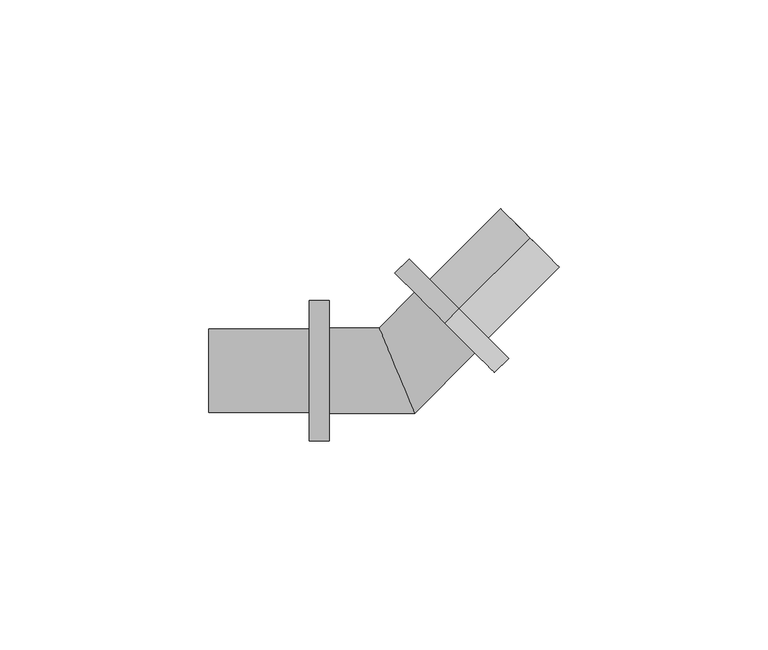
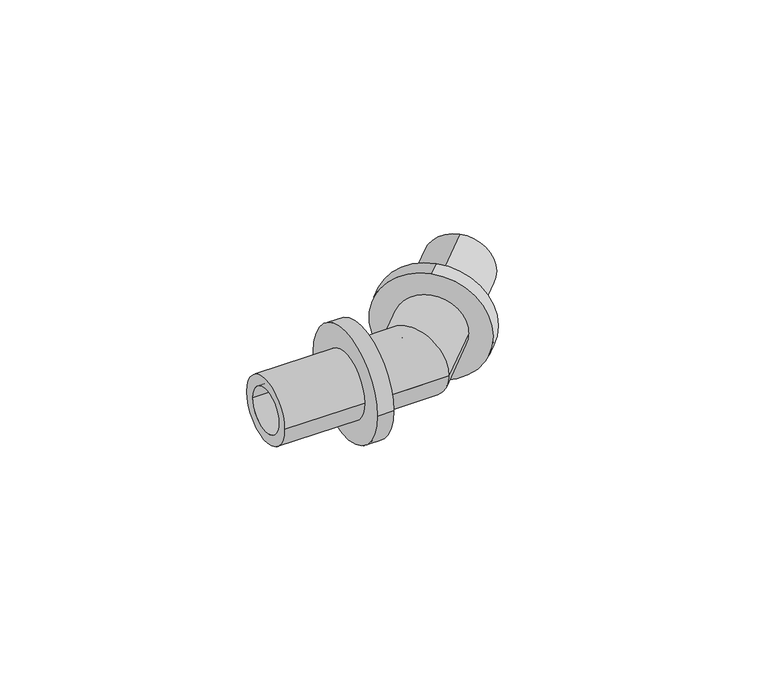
"""IFC4 building model written with IfcOpenShell, lengths in millimetres: pipe fitting geometry, RAUTITAN_Corner_PX : RTI PX C DE."""

from ifc_helpers import new_model, si_unit, frame, origin, place, context, project, spatial, polyline, circle_curve, ellipse_curve, source, transform, mapped, element, save
from ifc_brep_helpers import plane_surface, cylinder_surface, revolved_surface, advanced_brep


def pipe_fitting_b4838fa6(model_context):
    return source(origin(), model_context, "Body", "AdvancedBrep", [
        advanced_brep(
        [(14.8585786, 14.8585786, 16.85), (14.8585786, 14.8585786, -16.85), (11.4644661, 11.4644661, -16.85), (11.4644661, 11.4644661, 16.85), (31.8291414, 31.8291414, 9.95), (31.8291414, 31.8291414, -9.95), (14.8585786, 14.8585786, -9.95), (14.8585786, 14.8585786, 9.95), (11.4644661, 11.4644661, 6.75), (11.4644661, 11.4644661, -6.75), (31.8291414, 31.8291414, -6.75), (31.8291414, 31.8291414, 6.75)],
        [
            (0, 1, circle_curve(frame((14.8585786, 14.8585786, 0.0), z_axis=(-0.7071067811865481, -0.707106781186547, 0.0), x_axis=(0.0, 0.0, -1.0)), 16.85)),
            (1, 2),
            (2, 3, circle_curve(frame((11.4644661, 11.4644661, 0.0), z_axis=(0.7071067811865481, 0.707106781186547, 0.0), x_axis=(0.0, 0.0, -1.0)), 16.85)),
            (3, 0),
            (4, 5, circle_curve(frame((31.8291414, 31.8291414, 0.0), z_axis=(-0.7071067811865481, -0.707106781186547, 0.0), x_axis=(0.0, 0.0, -1.0)), 9.95)),
            (5, 6),
            (6, 7, circle_curve(frame((14.8585786, 14.8585786, 0.0), z_axis=(0.7071067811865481, 0.707106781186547, 0.0), x_axis=(0.0, 0.0, -1.0)), 9.95)),
            (7, 4),
            (8, 9, circle_curve(frame((11.4644661, 11.4644661, 0.0), z_axis=(-0.7071067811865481, -0.707106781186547, 0.0), x_axis=(0.0, 0.0, -1.0)), 6.75)),
            (9, 10),
            (10, 11, circle_curve(frame((31.8291414, 31.8291414, 0.0), z_axis=(0.7071067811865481, 0.707106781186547, 0.0), x_axis=(0.0, 0.0, -1.0)), 6.75)),
            (11, 8),
            (1, 0, circle_curve(frame((14.8585786, 14.8585786, 0.0), z_axis=(-0.7071067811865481, -0.707106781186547, 0.0), x_axis=(0.0, 0.0, 1.0)), 16.85)),
            (3, 2, circle_curve(frame((11.4644661, 11.4644661, 0.0), z_axis=(0.7071067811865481, 0.707106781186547, 0.0), x_axis=(0.0, 0.0, 1.0)), 16.85)),
            (6, 7, circle_curve(frame((14.8585786, 14.8585786, 0.0), z_axis=(-0.7071067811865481, -0.707106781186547, 0.0), x_axis=(0.0, 0.0, 1.0)), 9.95)),
            (5, 4, circle_curve(frame((31.8291414, 31.8291414, 0.0), z_axis=(-0.7071067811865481, -0.707106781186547, 0.0), x_axis=(0.0, 0.0, 1.0)), 9.95)),
            (10, 11, circle_curve(frame((31.8291414, 31.8291414, 0.0), z_axis=(-0.7071067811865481, -0.707106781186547, 0.0), x_axis=(0.0, 0.0, 1.0)), 6.75)),
            (9, 8, circle_curve(frame((11.4644661, 11.4644661, 0.0), z_axis=(-0.7071067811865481, -0.707106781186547, 0.0), x_axis=(0.0, 0.0, 1.0)), 6.75)),
        ],
        [
            cylinder_surface(frame((11.4644661, 11.4644661, 0.0), z_axis=(0.7071067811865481, 0.707106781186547, 0.0), x_axis=(0.0, 0.0, -1.0)), 16.85),
            cylinder_surface(frame((11.4644661, 11.4644661, 0.0), z_axis=(0.7071067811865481, 0.707106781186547, 0.0), x_axis=(0.0, 0.0, -1.0)), 9.95),
            revolved_surface(polyline([(31.82914140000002, 31.829141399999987, -6.75), (11.4644661, 11.4644661, -6.75)]), (11.4644661, 11.4644661, 0.0), (0.7071067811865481, 0.707106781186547, 0.0)),
            cylinder_surface(frame((11.4644661, 11.4644661, 0.0), z_axis=(0.7071067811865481, 0.707106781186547, 0.0), x_axis=(0.0, 0.0, 1.0)), 16.85),
            plane_surface(frame((14.8585786, 14.8585786, 0.0), z_axis=(0.7071067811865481, 0.707106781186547, 0.0), x_axis=(0.0, 0.0, 1.0))),
            cylinder_surface(frame((11.4644661, 11.4644661, 0.0), z_axis=(0.7071067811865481, 0.707106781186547, 0.0), x_axis=(0.0, 0.0, 1.0)), 9.95),
            plane_surface(frame((31.8291414, 31.8291414, 0.0), z_axis=(0.7071067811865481, 0.707106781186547, 0.0), x_axis=(0.0, 0.0, 1.0))),
            revolved_surface(polyline([(31.82914140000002, 31.829141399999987, 6.75), (11.4644661, 11.4644661, 6.75)]), (11.4644661, 11.4644661, 0.0), (0.7071067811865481, 0.707106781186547, 0.0)),
            plane_surface(frame((11.4644661, 11.4644661, 0.0), z_axis=(-0.7071067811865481, -0.707106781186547, 0.0), x_axis=(0.0, 0.0, 1.0))),
        ],
        [
            (0, [[1, 2, 3, 4]]),
            (1, [[5, 6, 7, 8]]),
            (2, [[9, 10, 11, 12]]),
            (3, [[13, -4, 14, -2]]),
            (4, [[-13, -1], [15, -7]]),
            (5, [[16, -8, -15, -6]]),
            (6, [[-16, -5], [17, -11]]),
            (7, [[18, -12, -17, -10]]),
            (8, [[-14, -3], [-18, -9]]),
        ],
    ),
        advanced_brep(
        [(-21.0132034, -16.85, 0.0), (-21.0132034, 16.85, 0.0), (-16.2132034, 16.85, 0.0), (-16.2132034, -16.85, 0.0), (-45.0132034, -9.95, 0.0), (-45.0132034, 9.95, 0.0), (-21.0132034, 9.95, 0.0), (-21.0132034, -9.95, 0.0), (-16.2132034, -6.75, 0.0), (-16.2132034, 6.75, 0.0), (-45.0132034, 6.75, 0.0), (-45.0132034, -6.75, 0.0)],
        [
            (0, 1, circle_curve(frame((-21.0132034, 0.0, 0.0), z_axis=(1.0, 0.0, 0.0), x_axis=(0.0, 1.0, 0.0)), 16.85)),
            (1, 2),
            (2, 3, circle_curve(frame((-16.2132034, 0.0, 0.0), z_axis=(-1.0, 0.0, 0.0), x_axis=(0.0, 1.0, 0.0)), 16.85)),
            (3, 0),
            (4, 5, circle_curve(frame((-45.0132034, 0.0, 0.0), z_axis=(1.0, 0.0, 0.0), x_axis=(0.0, 1.0, 0.0)), 9.95)),
            (5, 6),
            (6, 7, circle_curve(frame((-21.0132034, 0.0, 0.0), z_axis=(-1.0, 0.0, 0.0), x_axis=(0.0, 1.0, 0.0)), 9.95)),
            (7, 4),
            (8, 9, circle_curve(frame((-16.2132034, 0.0, 0.0), z_axis=(1.0, 0.0, 0.0), x_axis=(0.0, 1.0, 0.0)), 6.75)),
            (9, 10),
            (10, 11, circle_curve(frame((-45.0132034, 0.0, 0.0), z_axis=(-1.0, 0.0, 0.0), x_axis=(0.0, 1.0, 0.0)), 6.75)),
            (11, 8),
            (1, 0, circle_curve(frame((-21.0132034, 0.0, 0.0), z_axis=(1.0, 0.0, 0.0), x_axis=(0.0, -1.0, 0.0)), 16.85)),
            (3, 2, circle_curve(frame((-16.2132034, 0.0, 0.0), z_axis=(-1.0, 0.0, 0.0), x_axis=(0.0, -1.0, 0.0)), 16.85)),
            (6, 7, circle_curve(frame((-21.0132034, 0.0, 0.0), z_axis=(1.0, 0.0, 0.0), x_axis=(0.0, -1.0, 0.0)), 9.95)),
            (5, 4, circle_curve(frame((-45.0132034, 0.0, 0.0), z_axis=(1.0, 0.0, 0.0), x_axis=(0.0, -1.0, 0.0)), 9.95)),
            (10, 11, circle_curve(frame((-45.0132034, 0.0, 0.0), z_axis=(1.0, 0.0, 0.0), x_axis=(0.0, -1.0, 0.0)), 6.75)),
            (9, 8, circle_curve(frame((-16.2132034, 0.0, 0.0), z_axis=(1.0, 0.0, 0.0), x_axis=(0.0, -1.0, 0.0)), 6.75)),
        ],
        [
            cylinder_surface(frame((-16.2132034, 0.0, 0.0), z_axis=(-1.0, 0.0, 0.0), x_axis=(0.0, 1.0, 0.0)), 16.85),
            cylinder_surface(frame((-16.2132034, 0.0, 0.0), z_axis=(-1.0, 0.0, 0.0), x_axis=(0.0, 1.0, 0.0)), 9.95),
            revolved_surface(polyline([(-45.0132034, 6.75, 0.0), (-16.2132034, 6.75, 0.0)]), (-16.2132034, 0.0, 0.0), (-1.0, 0.0, 0.0)),
            cylinder_surface(frame((-16.2132034, 0.0, 0.0), z_axis=(-1.0, 0.0, 0.0), x_axis=(0.0, -1.0, 0.0)), 16.85),
            plane_surface(frame((-21.0132034, 0.0, 0.0), z_axis=(-1.0, 0.0, 0.0), x_axis=(0.0, -1.0, 0.0))),
            cylinder_surface(frame((-16.2132034, 0.0, 0.0), z_axis=(-1.0, 0.0, 0.0), x_axis=(0.0, -1.0, 0.0)), 9.95),
            plane_surface(frame((-45.0132034, 0.0, 0.0), z_axis=(-1.0, 0.0, 0.0), x_axis=(0.0, -1.0, 0.0))),
            revolved_surface(polyline([(-45.0132034, -6.75, 0.0), (-16.2132034, -6.75, 0.0)]), (-16.2132034, 0.0, 0.0), (-1.0, 0.0, 0.0)),
            plane_surface(frame((-16.2132034, 0.0, 0.0), z_axis=(1.0, 0.0, 0.0), x_axis=(0.0, -1.0, 0.0))),
        ],
        [
            (0, [[1, 2, 3, 4]]),
            (1, [[5, 6, 7, 8]]),
            (2, [[9, 10, 11, 12]]),
            (3, [[13, -4, 14, -2]]),
            (4, [[-13, -1], [15, -7]]),
            (5, [[16, -8, -15, -6]]),
            (6, [[-16, -5], [17, -11]]),
            (7, [[18, -12, -17, -10]]),
            (8, [[-14, -3], [-18, -9]]),
        ],
    ),
        advanced_brep(
        [(-16.2132034, -10.25, 0.0), (-16.2132034, 10.25, 0.0), (-16.2132034, -6.75, 0.0), (-16.2132034, 6.75, 0.0), (-2.7959415, 6.75, 0.0), (2.7959415, -6.75, 0.0), (18.7123106, 4.2166216, 0.0), (4.2166216, 18.7123106, 0.0), (16.2374369, 6.6914953, 0.0), (6.6914953, 16.2374369, 0.0), (4.245689, -10.25, 0.0), (-4.245689, 10.25, 0.0)],
        [
            (0, 1, circle_curve(frame((-16.2132034, 0.0, 0.0), z_axis=(-1.0, 0.0, 0.0), x_axis=(0.0, 1.0, 0.0)), 10.25)),
            (1, 0, circle_curve(frame((-16.2132034, 0.0, 0.0), z_axis=(-1.0, 0.0, 0.0), x_axis=(0.0, 1.0, 0.0)), 10.25)),
            (2, 3, circle_curve(frame((-16.2132034, 0.0, 0.0), z_axis=(1.0, 0.0, 0.0), x_axis=(0.0, 1.0, 0.0)), 6.75)),
            (3, 2, circle_curve(frame((-16.2132034, 0.0, 0.0), z_axis=(1.0, 0.0, 0.0), x_axis=(0.0, 1.0, 0.0)), 6.75)),
            (3, 4),
            (4, 5, ellipse_curve(frame((0.0, 0.0, 0.0), z_axis=(0.9238795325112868, 0.3826834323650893, 0.0), x_axis=(0.3826834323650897, -0.9238795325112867, 0.0)), 7.3061474, 6.75)),
            (5, 2),
            (5, 4, ellipse_curve(frame((0.0, 0.0, 0.0), z_axis=(0.9238795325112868, 0.3826834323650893, 0.0), x_axis=(0.3826834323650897, -0.9238795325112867, 0.0)), 7.3061474, 6.75)),
            (6, 7, circle_curve(frame((11.4644661, 11.4644661, 0.0), z_axis=(0.7071067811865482, 0.7071067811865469, 0.0), x_axis=(-0.7071067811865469, 0.7071067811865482, 0.0)), 10.25)),
            (7, 6, circle_curve(frame((11.4644661, 11.4644661, 0.0), z_axis=(0.7071067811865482, 0.7071067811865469, 0.0), x_axis=(-0.7071067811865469, 0.7071067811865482, 0.0)), 10.25)),
            (8, 9, circle_curve(frame((11.4644661, 11.4644661, 0.0), z_axis=(-0.7071067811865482, -0.7071067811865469, 0.0), x_axis=(-0.7071067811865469, 0.7071067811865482, 0.0)), 6.75)),
            (9, 8, circle_curve(frame((11.4644661, 11.4644661, 0.0), z_axis=(-0.7071067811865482, -0.7071067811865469, 0.0), x_axis=(-0.7071067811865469, 0.7071067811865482, 0.0)), 6.75)),
            (4, 9),
            (8, 5),
            (0, 10),
            (10, 11, ellipse_curve(frame((0.0, 0.0, 0.0), z_axis=(-0.9238795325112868, -0.3826834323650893, 0.0), x_axis=(-0.3826834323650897, 0.9238795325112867, 0.0)), 11.0945201, 10.25)),
            (11, 1),
            (11, 10, ellipse_curve(frame((0.0, 0.0, 0.0), z_axis=(-0.9238795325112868, -0.3826834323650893, 0.0), x_axis=(-0.3826834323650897, 0.9238795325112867, 0.0)), 11.0945201, 10.25)),
            (10, 6),
            (7, 11),
        ],
        [
            plane_surface(frame((-16.2132034, 0.0, 0.0), z_axis=(-1.0, 0.0, 0.0), x_axis=(0.0, 0.0, 1.0))),
            revolved_surface(polyline([(2.7959415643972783, 6.75, 0.0), (-16.2132034, 6.75, 0.0)]), (-16.2132034, 0.0, 0.0), (1.0, 0.0, 0.0)),
            plane_surface(frame((11.4644661, 11.4644661, 0.0), z_axis=(0.7071067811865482, 0.7071067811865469, 0.0), x_axis=(0.0, 0.0, 1.0))),
            revolved_surface(polyline([(6.6914953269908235, 16.237436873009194, 0.0), (-6.750000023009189, 2.7959415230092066, 0.0)]), (0.0, 0.0, 0.0), (0.7071067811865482, 0.7071067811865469, 0.0)),
            cylinder_surface(frame((-16.2132034, 0.0, 0.0), z_axis=(-1.0, 0.0, 0.0), x_axis=(0.0, 1.0, 0.0)), 10.25),
            cylinder_surface(frame((0.0, 0.0, 0.0), z_axis=(-0.7071067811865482, -0.7071067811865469, 0.0), x_axis=(-0.7071067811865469, 0.7071067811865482, 0.0)), 10.25),
        ],
        [
            (0, [[1, 2], [3, 4]]),
            (1, [[-4, 5, 6, 7]]),
            (1, [[-3, -7, 8, -5]]),
            (2, [[9, 10], [11, 12]]),
            (3, [[-6, 13, -11, 14]]),
            (3, [[-8, -14, -12, -13]]),
            (4, [[-1, 15, 16, 17]]),
            (4, [[-2, -17, 18, -15]]),
            (5, [[-16, 19, -10, 20]]),
            (5, [[-18, -20, -9, -19]]),
        ],
    ),
    ])


if __name__ == "__main__":
    model = new_model("IFC4")
    model_context = context("Model", 3, world=origin())
    ifc_project = project(units=[si_unit("LENGTHUNIT", "METRE", prefix="MILLI")], contexts=[model_context])
    site = spatial("IfcSite", under=ifc_project)
    building = spatial("IfcBuilding", under=site)
    placement = place(None, origin())
    pipe_fitting_shape = pipe_fitting_b4838fa6(model_context)
    element("IfcPipeFitting", 1, ObjectType="RAUTITAN_Corner_PX : RTI PX C DE", at=placement, inside=building, context=model_context, shape_type="MappedRepresentation", body=[
        mapped(pipe_fitting_shape, transform((0.0, 0.0, 0.0), x_axis=(1.0, 0.0, 0.0), y_axis=(0.0, 1.0, 0.0), z_axis=(0.0, 0.0, 1.0))),
    ])
    save(model, "model.ifc")
